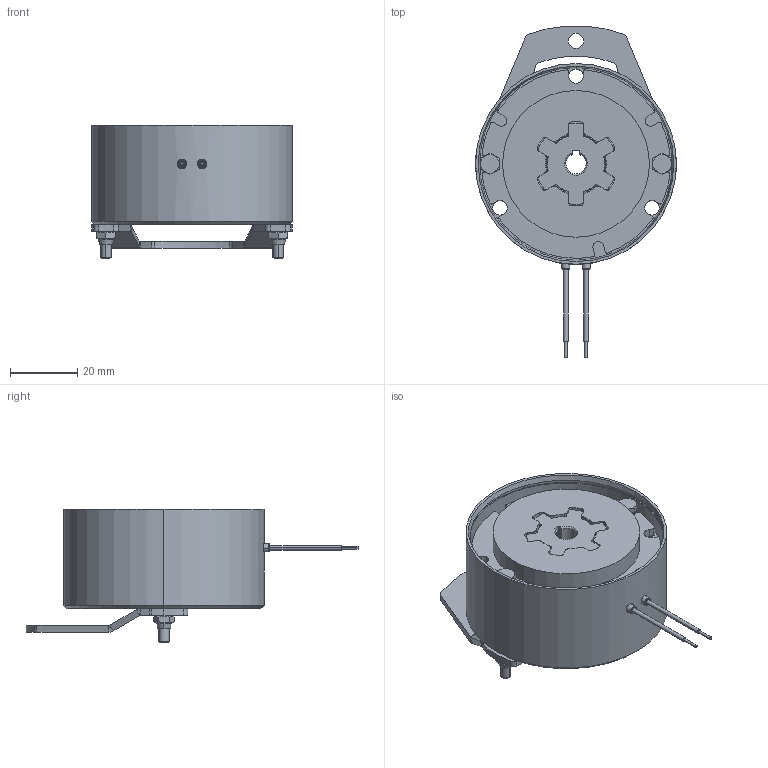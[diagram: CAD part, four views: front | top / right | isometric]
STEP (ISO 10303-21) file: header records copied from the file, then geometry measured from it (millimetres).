
FILE_DESCRIPTION (( 'STEP AP214' ), '1' );
FILE_NAME ('0008 mit HL.STEP', '2025-03-25T12:37:38', ( '' ), ( '' ), 'SwSTEP 2.0', 'SolidWorks 2022', '' );
FILE_SCHEMA (( 'AUTOMOTIVE_DESIGN' ));
Length unit declared in the file: millimetre
Products named in the file (7): 10068546_000; 10068550_000; 10068549_000; 0008 mit HL; 10068545_000_Kundenmodell; 10068671_000; 10068542_000_Einbaulänge 19,65mm
Assembly tree (6 placements, depth 2):
  0008 mit HL
    10068550_000
    10068542_000_Einbaulänge 19,65mm
    10068549_000
    10068545_000_Kundenmodell
    10068546_000
    10068671_000
Bounding box: 59.5 x 98.4 x 39.7 mm (x, y, z)
Volume: 69953.2 mm3; surface area: 31386.6 mm2
Topology: 14 solids, 14 shells, 466 faces, 1159 edges, 737 vertices
Faces by surface type: cylinder 216, plane 139, cone 60, bspline 26, torus 25
Entity records: 24756 total; most frequent: CARTESIAN_POINT 10470, DIRECTION 2395, ORIENTED_EDGE 2318, EDGE_CURVE 1159, AXIS2_PLACEMENT_3D 962, VERTEX_POINT 737, EDGE_LOOP 514, CIRCLE 513
